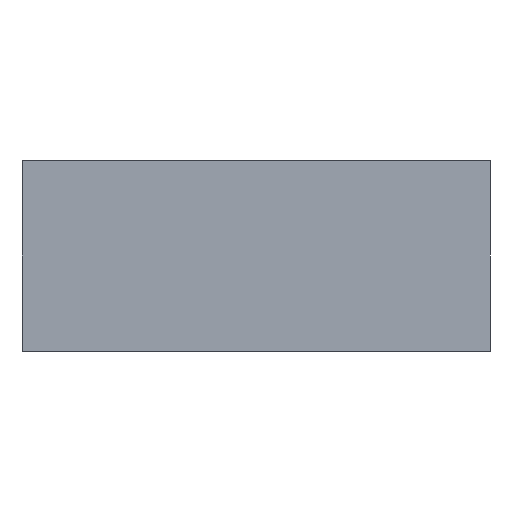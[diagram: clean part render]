
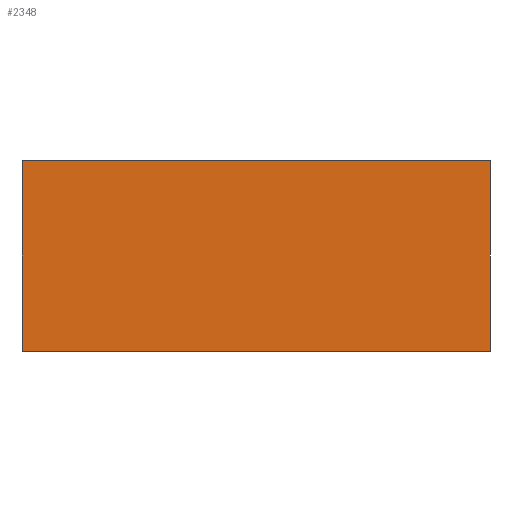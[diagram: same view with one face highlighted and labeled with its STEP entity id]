
A CAD part, left-side view. The second image highlights one B-rep face of the part: STEP entity #2348.
In plain terms, the highlighted planar face has unit normal (-1, 0, 0).
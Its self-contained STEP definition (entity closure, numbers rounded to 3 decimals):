
#368 = PLANE ( 'NONE',  #3615 ) ;
#461 = VERTEX_POINT ( 'NONE', #1609 ) ;
#707 = DIRECTION ( 'NONE',  ( 0., 0., -1. ) ) ;
#792 = VECTOR ( 'NONE', #1947, 1000. ) ;
#943 = EDGE_CURVE ( 'NONE', #3343, #461, #1598, .T. ) ;
#1102 = ORIENTED_EDGE ( 'NONE', *, *, #3154, .F. ) ;
#1598 = LINE ( 'NONE', #2887, #5640 ) ;
#1609 = CARTESIAN_POINT ( 'NONE',  ( -182., -60.5, 0. ) ) ;
#1679 = ORIENTED_EDGE ( 'NONE', *, *, #4052, .T. ) ;
#1850 = CARTESIAN_POINT ( 'NONE',  ( -182., -60.5, 49.3 ) ) ;
#1939 = LINE ( 'NONE', #3889, #3764 ) ;
#1947 = DIRECTION ( 'NONE',  ( 0., -1., 0. ) ) ;
#1998 = DIRECTION ( 'NONE',  ( 1., 0., 0. ) ) ;
#2348 = ADVANCED_FACE ( 'NONE', ( #5852 ), #368, .F. ) ;
#2370 = LINE ( 'NONE', #2969, #792 ) ;
#2772 = DIRECTION ( 'NONE',  ( 0., 0., -1. ) ) ;
#2887 = CARTESIAN_POINT ( 'NONE',  ( -182., -60.5, 0. ) ) ;
#2969 = CARTESIAN_POINT ( 'NONE',  ( -182., -60.5, 49.3 ) ) ;
#3154 = EDGE_CURVE ( 'NONE', #4683, #461, #4767, .T. ) ;
#3196 = VECTOR ( 'NONE', #707, 1000. ) ;
#3343 = VERTEX_POINT ( 'NONE', #3774 ) ;
#3475 = ORIENTED_EDGE ( 'NONE', *, *, #943, .T. ) ;
#3615 = AXIS2_PLACEMENT_3D ( 'NONE', #1850, #1998, #6784 ) ;
#3764 = VECTOR ( 'NONE', #2772, 1000. ) ;
#3774 = CARTESIAN_POINT ( 'NONE',  ( -182., 60.5, 0. ) ) ;
#3782 = ORIENTED_EDGE ( 'NONE', *, *, #5290, .F. ) ;
#3889 = CARTESIAN_POINT ( 'NONE',  ( -182., 60.5, 49.3 ) ) ;
#3956 = DIRECTION ( 'NONE',  ( 0., -1., 0. ) ) ;
#4052 = EDGE_CURVE ( 'NONE', #5870, #3343, #1939, .T. ) ;
#4065 = CARTESIAN_POINT ( 'NONE',  ( -182., -60.5, 49.3 ) ) ;
#4683 = VERTEX_POINT ( 'NONE', #4065 ) ;
#4767 = LINE ( 'NONE', #5450, #3196 ) ;
#4873 = EDGE_LOOP ( 'NONE', ( #3475, #1102, #3782, #1679 ) ) ;
#5078 = CARTESIAN_POINT ( 'NONE',  ( -182., 60.5, 49.3 ) ) ;
#5290 = EDGE_CURVE ( 'NONE', #5870, #4683, #2370, .T. ) ;
#5450 = CARTESIAN_POINT ( 'NONE',  ( -182., -60.5, 49.3 ) ) ;
#5640 = VECTOR ( 'NONE', #3956, 1000. ) ;
#5852 = FACE_OUTER_BOUND ( 'NONE', #4873, .T. ) ;
#5870 = VERTEX_POINT ( 'NONE', #5078 ) ;
#6784 = DIRECTION ( 'NONE',  ( 0., 0., -1. ) ) ;
